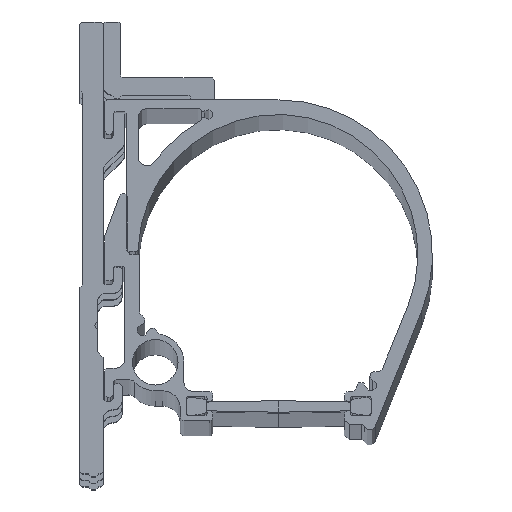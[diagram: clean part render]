
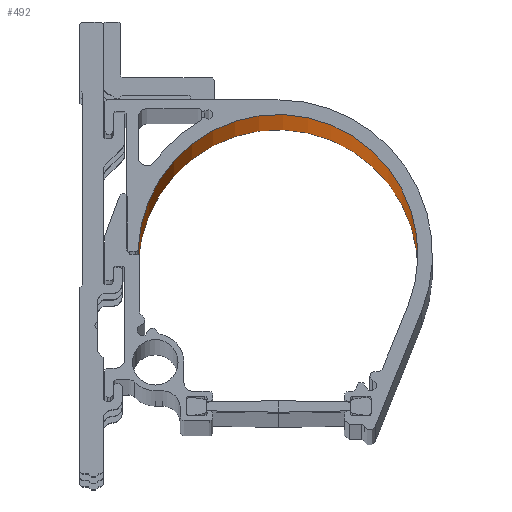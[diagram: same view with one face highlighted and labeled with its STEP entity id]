
A CAD part, top view. The second image highlights one B-rep face of the part: STEP entity #492.
In plain terms, the highlighted cylindrical face has radius 48 mm (diameter 96 mm), a partial arc.
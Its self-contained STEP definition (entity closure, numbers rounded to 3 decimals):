
#492=ADVANCED_FACE('',(#820),#632,.F.);
#632=CYLINDRICAL_SURFACE('',#5084,48.);
#820=FACE_OUTER_BOUND('',#1054,.T.);
#1054=EDGE_LOOP('',(#2039,#2040,#2041,#2042));
#2039=ORIENTED_EDGE('',*,*,#3392,.F.);
#2040=ORIENTED_EDGE('',*,*,#3391,.F.);
#2041=ORIENTED_EDGE('',*,*,#3393,.T.);
#2042=ORIENTED_EDGE('',*,*,#3394,.T.);
#2781=VERTEX_POINT('',#7589);
#2782=VERTEX_POINT('',#7591);
#2783=VERTEX_POINT('',#7595);
#2784=VERTEX_POINT('',#7597);
#3391=EDGE_CURVE('',#2782,#2781,#4121,.T.);
#3392=EDGE_CURVE('',#2781,#2783,#3709,.T.);
#3393=EDGE_CURVE('',#2782,#2784,#3710,.T.);
#3394=EDGE_CURVE('',#2784,#2783,#4122,.T.);
#3709=CIRCLE('',#5082,48.);
#3710=CIRCLE('',#5083,48.);
#4121=LINE('',#7592,#4584);
#4122=LINE('',#7598,#4585);
#4584=VECTOR('',#6213,1.);
#4585=VECTOR('',#6220,1.);
#5082=AXIS2_PLACEMENT_3D('',#7594,#6216,#6217);
#5083=AXIS2_PLACEMENT_3D('',#7596,#6218,#6219);
#5084=AXIS2_PLACEMENT_3D('',#7599,#6221,#6222);
#6213=DIRECTION('',(0.,0.,-1.));
#6216=DIRECTION('',(0.,0.,1.));
#6217=DIRECTION('',(1.,0.,0.));
#6218=DIRECTION('',(0.,0.,1.));
#6219=DIRECTION('',(1.,0.,0.));
#6220=DIRECTION('',(0.,0.,-1.));
#6221=DIRECTION('',(0.,0.,-1.));
#6222=DIRECTION('',(-1.,0.,0.));
#7589=CARTESIAN_POINT('',(187.068,134.897,0.));
#7591=CARTESIAN_POINT('',(187.068,134.897,3000.));
#7592=CARTESIAN_POINT('',(187.068,134.897,3000.));
#7594=CARTESIAN_POINT('',(142.578,152.915,0.));
#7595=CARTESIAN_POINT('',(94.618,154.874,0.));
#7596=CARTESIAN_POINT('',(142.578,152.915,3000.));
#7597=CARTESIAN_POINT('',(94.618,154.874,3000.));
#7598=CARTESIAN_POINT('',(94.618,154.874,3000.));
#7599=CARTESIAN_POINT('',(142.578,152.915,3000.));
